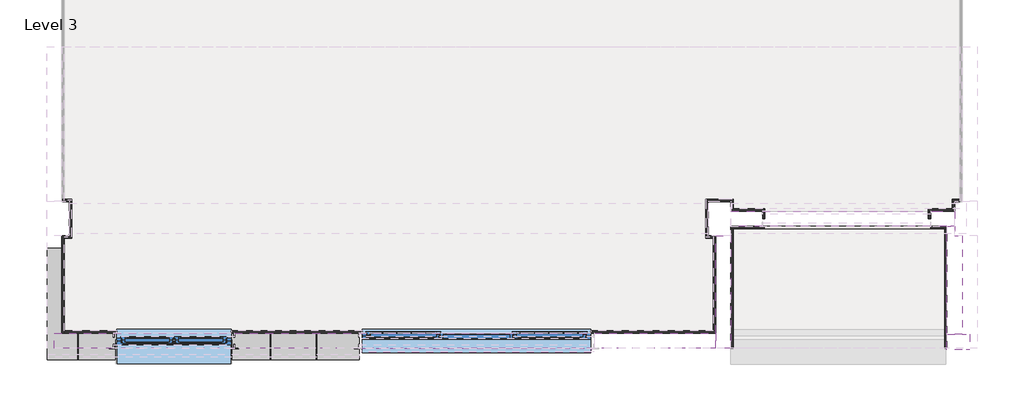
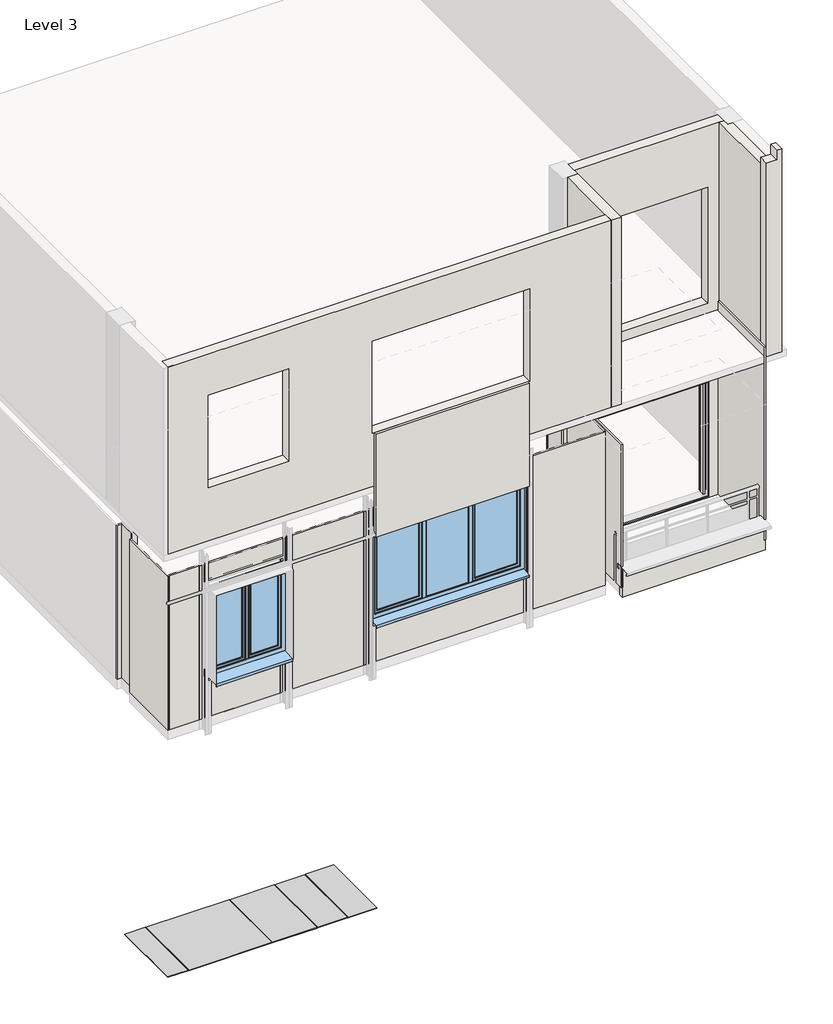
# One storey, part 1 of 2: 26 walls, 5 plates, 4 members, 2 windows.
"""IFC4 building model written with IfcOpenShell, lengths in millimetres."""

from ifc_helpers import new_model, si_unit, frame, origin, place, context, project, spatial, polyline, outline, extrude, faceted_brep, transform, mapped, element, save
from components import rectangular_mullion_bz1a_mullion_2_91d4473b, system_panel_bz1_cement_panel_a_4b41b399, system_panel_bz1_cement_panel_a_91910c2d, system_panel_bz1_cement_panel_a_8a756caf, system_panel_bz1_cement_panel_a_80ad805f, system_panel_bz1_cement_panel_a_3b9d9a30, window_0894faee, window_6c88f6a3, bz1_windows_opening_hinge_s9000_double_vent_window_windows_b4b88814, bz1_windows_opening_hinge_s9000_double_vent_window_windows_c75da518

model = new_model("IFC4")

# Units and contexts
model_context = context("Model", 3, world=origin())
ifc_project = project(units=[si_unit("LENGTHUNIT", "METRE", prefix="MILLI")], contexts=[model_context])

# Site, building, storey
site = spatial("IfcSite", under=ifc_project)
building = spatial("IfcBuilding", under=site)
storey = spatial("IfcBuildingStorey", under=building, Name="Level 3", Elevation=8000.0)

# Members
placement = place(None, origin())
rectangular_mullion_bz1a_mullion_2_shape = rectangular_mullion_bz1a_mullion_2_91d4473b(model_context)
element("IfcMember", 1, ObjectType="Rectangular Mullion : BZ1A-Mullion 2", at=placement, inside=storey, context=model_context, shape_type="MappedRepresentation", body=[
    mapped(rectangular_mullion_bz1a_mullion_2_shape, transform((-3799.9948265, -4387.9647185, 3167.5), x_axis=(1.0, 0.0, 0.0), y_axis=(0.0, 0.0, -1.0), z_axis=(0.0, 1.0, 0.0))),
])
element("IfcMember", 2, ObjectType="Rectangular Mullion : BZ1A-Mullion 2", at=placement, inside=storey, context=model_context, shape_type="MappedRepresentation", body=[
    mapped(rectangular_mullion_bz1a_mullion_2_shape, transform((-2158.7093814, -4387.9647185, 3167.5), x_axis=(1.0, 0.0, 0.0), y_axis=(0.0, 0.0, -1.0), z_axis=(0.0, 1.0, 0.0))),
])
element("IfcMember", 3, ObjectType="Rectangular Mullion : BZ1A-Mullion 2", at=placement, inside=storey, context=model_context, shape_type="MappedRepresentation", body=[
    mapped(rectangular_mullion_bz1a_mullion_2_shape, transform((-1274.9239363, -4387.9647185, 3167.5), x_axis=(1.0, 0.0, 0.0), y_axis=(0.0, 0.0, -1.0), z_axis=(0.0, 1.0, 0.0))),
])
element("IfcMember", 4, ObjectType="Rectangular Mullion : BZ1A-Mullion 2", at=placement, inside=storey, context=model_context, shape_type="MappedRepresentation", body=[
    mapped(rectangular_mullion_bz1a_mullion_2_shape, transform((-674.2634912, -4387.9647185, 3167.5), x_axis=(1.0, 0.0, 0.0), y_axis=(0.0, 0.0, -1.0), z_axis=(0.0, 1.0, 0.0))),
])

# Plates
system_panel_bz1_cement_panel_a_shape = system_panel_bz1_cement_panel_a_4b41b399(model_context)
element("IfcPlate", 5, ObjectType="System Panel : BZ1-Cement panel-A", at=placement, inside=storey, context=model_context, shape_type="MappedRepresentation", body=[
    mapped(system_panel_bz1_cement_panel_a_shape, transform((-4002.5125492, -5845.2459685, 3167.5), x_axis=(1.0, 0.0, 0.0), y_axis=(0.0, 0.0, -1.0), z_axis=(0.0, 1.0, 0.0))),
])
system_panel_bz1_cement_panel_a_2_shape = system_panel_bz1_cement_panel_a_91910c2d(model_context)
element("IfcPlate", 6, ObjectType="System Panel : BZ1-Cement panel-A", at=placement, inside=storey, context=model_context, shape_type="MappedRepresentation", body=[
    mapped(system_panel_bz1_cement_panel_a_2_shape, transform((-2979.352104, -5845.2459685, 3167.5), x_axis=(1.0, 0.0, 0.0), y_axis=(0.0, 0.0, -1.0), z_axis=(0.0, 1.0, 0.0))),
])
system_panel_bz1_cement_panel_a_3_shape = system_panel_bz1_cement_panel_a_8a756caf(model_context)
element("IfcPlate", 7, ObjectType="System Panel : BZ1-Cement panel-A", at=placement, inside=storey, context=model_context, shape_type="MappedRepresentation", body=[
    mapped(system_panel_bz1_cement_panel_a_3_shape, transform((-1716.8166589, -5845.2459685, 3167.5), x_axis=(1.0, 0.0, 0.0), y_axis=(0.0, 0.0, -1.0), z_axis=(0.0, 1.0, 0.0))),
])
system_panel_bz1_cement_panel_a_4_shape = system_panel_bz1_cement_panel_a_80ad805f(model_context)
element("IfcPlate", 8, ObjectType="System Panel : BZ1-Cement panel-A", at=placement, inside=storey, context=model_context, shape_type="MappedRepresentation", body=[
    mapped(system_panel_bz1_cement_panel_a_4_shape, transform((-974.5937138, -5845.2459685, 3167.5), x_axis=(1.0, 0.0, 0.0), y_axis=(0.0, 0.0, -1.0), z_axis=(0.0, 1.0, 0.0))),
])
system_panel_bz1_cement_panel_a_5_shape = system_panel_bz1_cement_panel_a_3b9d9a30(model_context)
element("IfcPlate", 9, ObjectType="System Panel : BZ1-Cement panel-A", at=placement, inside=storey, context=model_context, shape_type="MappedRepresentation", body=[
    mapped(system_panel_bz1_cement_panel_a_5_shape, transform((-389.5582685, -5845.2459685, 3167.5), x_axis=(1.0, 0.0, 0.0), y_axis=(0.0, 0.0, -1.0), z_axis=(0.0, 1.0, 0.0))),
])

# Walls
element("IfcWall", 10, ObjectType="BZ1_fnsh_wthie stucoo_3cm", at=placement, inside=storey, context=model_context, shape_type="Brep", body=[
    faceted_brep([(7589.4333411, -4100.9647185, 8000.0), (4759.4333411, -4100.9647185, 8000.0), (4759.4333411, -4100.9647185, 10800.0), (7589.4333411, -4100.9647185, 10800.0), (5195.0708411, -4100.9647185, 10380.0), (5195.0708411, -4100.9647185, 8020.6375), (7374.4333411, -4100.9647185, 8020.6375), (7374.4333411, -4100.9647185, 10380.0), (7589.4333411, -4130.9647185, 8000.0), (7589.4333411, -4130.9647185, 10800.0), (4759.4333411, -4130.9647185, 10800.0), (4759.4333411, -4130.9647185, 8002.7236333), (4759.4333411, -4130.9647185, 8000.0), (7559.4333411, -4130.9647185, 8000.0), (5195.0708411, -4130.9647185, 10380.0), (7374.4333411, -4130.9647185, 10380.0), (7374.4333411, -4130.9647185, 8020.6375), (5195.0708411, -4130.9647185, 8020.6375)], [[[0, 1, 2, 3], [4, 5, 6, 7]], [[8, 9, 10, 11, 12, 13], [14, 15, 16, 17]], [[1, 0, 8, 13, 12]], [[2, 1, 12, 11, 10]], [[3, 2, 10, 9]], [[5, 4, 14, 17]], [[6, 5, 17, 16]], [[7, 6, 16, 15]], [[4, 7, 15, 14]], [[0, 3, 9, 8]]]),
])
element("IfcWall", 11, ObjectType="BZ1_fnsh_wthie stucoo_3cm", at=placement, inside=storey, context=model_context, shape_type="Brep", body=[
    faceted_brep([(7589.4333411, -5700.9647185, 12000.0), (7589.4333411, -5700.9647185, 8000.0), (7589.4333411, -4130.9647185, 8000.0), (7589.4333411, -4130.9647185, 10800.0), (7589.4333411, -4130.9647185, 12000.0), (7559.4333411, -5700.9647185, 8000.0), (7559.4333411, -5700.9647185, 12000.0), (7559.4333411, -4130.9647185, 12000.0), (7559.4333411, -4130.9647185, 8000.0)], [[[0, 1, 2, 3, 4]], [[5, 6, 7, 8]], [[2, 1, 5, 8]], [[0, 4, 7, 6]], [[4, 3, 2, 8, 7]], [[0, 6, 5, 1]]]),
])
element("IfcWall", 12, ObjectType="BZ1_fnsh_white stucoo_5cm", at=placement, inside=storey, context=model_context, shape_type="Brep", body=[
    faceted_brep([(-80.2322612, -5700.9799478, 12900.0), (2927.4333411, -5700.9799478, 12900.0), (2927.4333411, -5700.9799478, 11670.0), (2927.4333411, -5700.9799478, 10810.0), (-80.2322612, -5700.9799478, 10810.0), (-80.2322612, -5750.9799478, 10770.0), (2927.4333411, -5750.9799478, 10770.0), (2927.4333411, -5750.9799478, 12900.0), (-80.2322612, -5750.9799478, 12900.0), (2927.4333411, -5743.4647185, 10770.0), (2927.4333411, -5743.4647185, 10810.0), (-80.2322612, -5743.4647185, 10810.0), (-80.2322612, -5743.4647185, 10770.0)], [[[0, 1, 2, 3, 4]], [[5, 6, 7, 8]], [[7, 6, 9, 10, 3, 2, 1]], [[10, 11, 4, 3]], [[11, 10, 9, 12]], [[6, 5, 12, 9]], [[1, 0, 8, 7]], [[5, 8, 0, 4, 11, 12]]]),
])
element("IfcWall", 13, ObjectType="BZ1_fnsh_gypsun3cm", at=placement, inside=storey, context=model_context, shape_type="SweptSolid", body=[
    extrude(outline(polyline([(8000.0, 4559.4333411), (11180.0, 4559.4333411), (11180.0, -4000.5666589), (8000.0, -4000.5666589), (8000.0, 4559.4333411)]), holes=[polyline([(8951.5, -1790.5666589), (8951.5, -3290.5666589), (10770.0, -3290.5666589), (10770.0, -1790.5666589), (8951.5, -1790.5666589)]), polyline([(8951.5, 2922.4333411), (8951.5, -75.5666589), (10770.0, -75.5666589), (10770.0, 2922.4333411), (8951.5, 2922.4333411)])]), frame((0.0, -5500.9647185, 0.0), z_axis=(0.0, 1.0, 0.0), x_axis=(0.0, 0.0, 1.0)), (0.0, 0.0, 1.0), 30.0),
])
element("IfcWall", 14, ObjectType="BZ1_fnsh_gypsun3cm", at=placement, inside=storey, context=model_context, shape_type="Brep", body=[
    faceted_brep([(-3980.5666589, -5500.9647185, 8000.0), (-3980.5666589, -4255.9647185, 8000.0), (-3980.5666589, -4225.9647185, 8000.0), (-3980.5666589, -4225.9647185, 11175.0), (-3980.5666589, -5500.9647185, 11175.0), (-4010.5666589, -5500.9647185, 8000.0), (-4010.5666589, -5500.9647185, 11175.0), (-4010.5666589, -4225.9647185, 11175.0), (-4010.5666589, -4225.9647185, 8000.0)], [[[0, 1, 2, 3, 4]], [[5, 6, 7, 8]], [[2, 1, 0, 5, 8]], [[4, 3, 7, 6]], [[3, 2, 8, 7]], [[0, 4, 6, 5]]]),
])
element("IfcWall", 15, ObjectType="BZ1_fnsh_gypsun3cm", at=placement, inside=storey, context=model_context, shape_type="Brep", body=[
    faceted_brep([(-3980.5666589, -4255.9647185, 8000.0), (-3880.5666589, -4255.9647185, 8000.0), (-3880.5666589, -4255.9647185, 11300.0), (-3980.5666589, -4255.9647185, 11300.0), (-3980.5666589, -4225.9647185, 8000.0), (-3980.5666589, -4225.9647185, 11175.0), (-3980.5666589, -4225.9647185, 11300.0), (-3880.5666589, -4225.9647185, 11300.0), (-3880.5666589, -4225.9647185, 11180.0), (-3880.5666589, -4225.9647185, 8000.0), (-3910.5666589, -4225.9647185, 8000.0)], [[[0, 1, 2, 3]], [[4, 5, 6, 7, 8, 9, 10]], [[1, 0, 4, 10, 9]], [[3, 2, 7, 6]], [[0, 3, 6, 5, 4]], [[2, 1, 9, 8, 7]]]),
])
element("IfcWall", 16, ObjectType="BZ1_fnsh_gypsun3cm", at=placement, inside=storey, context=model_context, shape_type="Brep", body=[
    faceted_brep([(-3880.5666589, -4225.9647185, 8000.0), (-3880.5666589, -3745.9647185, 8000.0), (-3880.5666589, -3745.9647185, 11180.0), (-3880.5666589, -4225.9647185, 11180.0), (-3910.5666589, -4225.9647185, 8000.0), (-3910.5666589, -4225.9647185, 11180.0), (-3910.5666589, -3775.9647185, 11180.0), (-3910.5666589, -3745.9647185, 11180.0), (-3910.5666589, -3745.9647185, 8000.0), (-3910.5666589, -3775.9647185, 8000.0)], [[[0, 1, 2, 3]], [[4, 5, 6, 7, 8, 9]], [[1, 0, 4, 9, 8]], [[3, 2, 7, 6, 5]], [[0, 3, 5, 4]], [[2, 1, 8, 7]]]),
])
element("IfcWall", 17, ObjectType="BZ1_fnsh_gypsun3cm", at=placement, inside=storey, context=model_context, shape_type="SweptSolid", body=[
    extrude(outline(polyline([(-4000.5666589, -3745.9647185), (-3910.5666589, -3745.9647185), (-3910.5666589, -3775.9647185), (-4000.5666589, -3775.9647185), (-4000.5666589, -3745.9647185)])), frame((0.0, 0.0, 8000.0), z_axis=(0.0, 0.0, 1.0), x_axis=(1.0, 0.0, 0.0)), (0.0, 0.0, 1.0), 3180.0),
])
element("IfcWall", 18, ObjectType="BZ1_fnsh_gypsun3cm", at=placement, inside=storey, context=model_context, shape_type="Brep", body=[
    faceted_brep([(7759.4333411, -3745.9647185, 8000.0), (7659.4333411, -3745.9647185, 8000.0), (7659.4333411, -3745.9647185, 11184.6661592), (7759.4333411, -3745.9647185, 11184.6661592), (7759.4333411, -3775.9647185, 8000.0), (7759.4333411, -3775.9647185, 11184.6661592), (7659.4333411, -3775.9647185, 11184.6661592), (7659.4333411, -3775.9647185, 11180.0), (7659.4333411, -3775.9647185, 8000.0), (7689.4333411, -3775.9647185, 8000.0)], [[[0, 1, 2, 3]], [[4, 5, 6, 7, 8, 9]], [[1, 0, 4, 9, 8]], [[3, 2, 6, 5]], [[0, 3, 5, 4]], [[2, 1, 8, 7, 6]]]),
])
element("IfcWall", 19, ObjectType="BZ1_fnsh_gypsun3cm", at=placement, inside=storey, context=model_context, shape_type="Brep", body=[
    faceted_brep([(7659.4333411, -3775.9647185, 8000.0), (7659.4333411, -3870.9647185, 8000.0), (7659.4333411, -3900.9647185, 8000.0), (7659.4333411, -3900.9647185, 11200.0), (7659.4333411, -3900.9647185, 11300.0), (7659.4333411, -3870.9647185, 11300.0), (7659.4333411, -3870.9647185, 11200.0), (7659.4333411, -3870.9647185, 11180.0), (7659.4333411, -3775.9647185, 11180.0), (7689.4333411, -3775.9647185, 8000.0), (7689.4333411, -3775.9647185, 11180.0), (7689.4333411, -3870.9647185, 11180.0), (7689.4333411, -3870.9647185, 11300.0), (7689.4333411, -3900.9647185, 11300.0), (7689.4333411, -3900.9647185, 11200.0), (7689.4333411, -3900.9647185, 8000.0)], [[[0, 1, 2, 3, 4, 5, 6, 7, 8]], [[9, 10, 11, 12, 13, 14, 15]], [[2, 1, 0, 9, 15]], [[0, 8, 10, 9]], [[5, 4, 13, 12]], [[8, 7, 11, 10]], [[5, 12, 11, 7, 6]], [[2, 15, 14, 13, 4, 3]]]),
])
element("IfcWall", 20, ObjectType="BZ1_fnsh_gypsun3cm", at=placement, inside=storey, context=model_context, shape_type="Brep", body=[
    faceted_brep([(7659.4333411, -3870.9647185, 8000.0), (7344.4333411, -3870.9647185, 8000.0), (7344.4333411, -3870.9647185, 10400.0), (5204.4333411, -3870.9647185, 10400.0), (5174.4333411, -3870.9647185, 10400.0), (5174.4333411, -3870.9647185, 11200.0), (5204.4333411, -3870.9647185, 11200.0), (7659.4333411, -3870.9647185, 11200.0), (7659.4333411, -3870.9647185, 11180.0), (7659.4333411, -3900.9647185, 8000.0), (7659.4333411, -3900.9647185, 11200.0), (5204.4333411, -3900.9647185, 11200.0), (5174.4333411, -3900.9647185, 11200.0), (5174.4333411, -3900.9647185, 10400.0), (5204.4333411, -3900.9647185, 10400.0), (7344.4333411, -3900.9647185, 10400.0), (7344.4333411, -3900.9647185, 8000.0), (7374.4333411, -3900.9647185, 8000.0)], [[[0, 1, 2, 3, 4, 5, 6, 7, 8]], [[9, 10, 11, 12, 13, 14, 15, 16, 17]], [[0, 8, 7, 10, 9]], [[1, 0, 9, 17, 16]], [[4, 3, 2, 15, 14, 13]], [[5, 4, 13, 12]], [[7, 6, 5, 12, 11, 10]], [[2, 1, 16, 15]]]),
])
element("IfcWall", 21, ObjectType="BZ1_fnsh_gypsun3cm", at=placement, inside=storey, context=model_context, shape_type="SweptSolid", body=[
    extrude(outline(polyline([(7344.4333411, -4000.9647185), (7344.4333411, -3900.9647185), (7374.4333411, -3900.9647185), (7374.4333411, -4000.9647185), (7344.4333411, -4000.9647185)])), frame((0.0, 0.0, 8000.0), z_axis=(0.0, 0.0, 1.0), x_axis=(1.0, 0.0, 0.0)), (0.0, 0.0, 1.0), 2400.0),
])
element("IfcWall", 22, ObjectType="BZ1_fnsh_gypsun3cm", at=placement, inside=storey, context=model_context, shape_type="Brep", body=[
    faceted_brep([(5204.4333411, -3870.9647185, 8000.0), (4789.4333411, -3870.9647185, 8000.0), (4759.4333411, -3870.9647185, 8000.0), (4759.4333411, -3870.9647185, 11200.0), (4759.4333411, -3870.9647185, 11300.0), (5204.4333411, -3870.9647185, 11300.0), (5204.4333411, -3870.9647185, 11200.0), (5174.4333411, -3870.9647185, 11200.0), (5174.4333411, -3870.9647185, 10400.0), (5204.4333411, -3870.9647185, 10400.0), (5204.4333411, -3900.9647185, 8000.0), (5204.4333411, -3900.9647185, 10400.0), (5174.4333411, -3900.9647185, 10400.0), (5174.4333411, -3900.9647185, 11200.0), (5204.4333411, -3900.9647185, 11200.0), (5204.4333411, -3900.9647185, 11300.0), (5174.4333411, -3900.9647185, 11300.0), (4759.4333411, -3900.9647185, 11300.0), (4759.4333411, -3900.9647185, 8000.0), (5174.4333411, -3900.9647185, 8000.0)], [[[0, 1, 2, 3, 4, 5, 6, 7, 8, 9]], [[10, 11, 12, 13, 14, 15, 16, 17, 18, 19]], [[2, 1, 0, 10, 19, 18]], [[5, 4, 17, 16, 15]], [[4, 3, 2, 18, 17]], [[8, 12, 11, 9]], [[8, 7, 13, 12]], [[6, 14, 13, 7]], [[0, 9, 11, 10]], [[6, 5, 15, 14]]]),
])
element("IfcWall", 23, ObjectType="BZ1_fnsh_gypsun3cm", at=placement, inside=storey, context=model_context, shape_type="Brep", body=[
    faceted_brep([(4789.4333411, -3870.9647185, 8000.0), (4789.4333411, -3745.9647185, 8000.0), (4789.4333411, -3745.9647185, 11200.0), (4789.4333411, -3870.9647185, 11200.0), (4759.4333411, -3870.9647185, 8000.0), (4759.4333411, -3870.9647185, 11200.0), (4759.4333411, -3775.9647185, 11200.0), (4759.4333411, -3745.9647185, 11200.0), (4759.4333411, -3745.9647185, 8000.0), (4759.4333411, -3775.9647185, 8000.0)], [[[0, 1, 2, 3]], [[4, 5, 6, 7, 8, 9]], [[1, 0, 4, 9, 8]], [[3, 2, 7, 6, 5]], [[0, 3, 5, 4]], [[2, 1, 8, 7]]]),
])
element("IfcWall", 24, ObjectType="BZ1_fnsh_gypsun3cm", at=placement, inside=storey, context=model_context, shape_type="Brep", body=[
    faceted_brep([(4759.4333411, -3745.9647185, 8000.0), (4429.4333411, -3745.9647185, 8000.0), (4429.4333411, -3745.9647185, 11200.0), (4759.4333411, -3745.9647185, 11200.0), (4759.4333411, -3775.9647185, 8000.0), (4759.4333411, -3775.9647185, 11200.0), (4429.4333411, -3775.9647185, 11200.0), (4429.4333411, -3775.9647185, 8000.0), (4459.4333411, -3775.9647185, 8000.0)], [[[0, 1, 2, 3]], [[4, 5, 6, 7, 8]], [[1, 0, 4, 8, 7]], [[3, 2, 6, 5]], [[0, 3, 5, 4]], [[2, 1, 7, 6]]]),
])
element("IfcWall", 25, ObjectType="BZ1_fnsh_gypsun3cm", at=placement, inside=storey, context=model_context, shape_type="Brep", body=[
    faceted_brep([(4429.4333411, -3775.9647185, 8000.0), (4429.4333411, -4255.9647185, 8000.0), (4429.4333411, -4255.9647185, 11180.0), (4429.4333411, -4240.9647185, 11180.0), (4429.4333411, -4240.9647185, 11200.4600485), (4429.4333411, -3775.9647185, 11200.4600485), (4429.4333411, -3775.9647185, 11200.0), (4459.4333411, -3775.9647185, 8000.0), (4459.4333411, -3775.9647185, 11200.4600485), (4459.4333411, -4240.9647185, 11200.4600485), (4459.4333411, -4240.9647185, 11180.0), (4459.4333411, -4255.9647185, 11180.0), (4459.4333411, -4255.9647185, 8000.0), (4459.4333411, -4225.9647185, 8000.0)], [[[0, 1, 2, 3, 4, 5, 6]], [[7, 8, 9, 10, 11, 12, 13]], [[1, 0, 7, 13, 12]], [[0, 6, 5, 8, 7]], [[2, 1, 12, 11]], [[5, 4, 9, 8]], [[3, 2, 11, 10]], [[9, 4, 3, 10]]]),
])
element("IfcWall", 26, ObjectType="BZ1_fnsh_gypsun3cm", at=placement, inside=storey, context=model_context, shape_type="Brep", body=[
    faceted_brep([(4459.4333411, -4255.9647185, 8000.0), (4529.4333411, -4255.9647185, 8000.0), (4559.4333411, -4255.9647185, 8000.0), (4559.4333411, -4255.9647185, 11200.0), (4559.4333411, -4255.9647185, 11300.0), (4459.4333411, -4255.9647185, 11300.0), (4459.4333411, -4255.9647185, 11180.0), (4459.4333411, -4225.9647185, 8000.0), (4459.4333411, -4225.9647185, 11300.0), (4559.4333411, -4225.9647185, 11300.0), (4559.4333411, -4225.9647185, 8000.0)], [[[0, 1, 2, 3, 4, 5, 6]], [[7, 8, 9, 10]], [[2, 1, 0, 7, 10]], [[5, 4, 9, 8]], [[0, 6, 5, 8, 7]], [[2, 10, 9, 4, 3]]]),
])
element("IfcWall", 27, ObjectType="BZ1_fnsh_gypsun3cm", at=placement, inside=storey, context=model_context, shape_type="SweptSolid", body=[
    extrude(outline(polyline([(4529.4333411, -5500.9647185), (4529.4333411, -4255.9647185), (4559.4333411, -4255.9647185), (4559.4333411, -5500.9647185), (4529.4333411, -5500.9647185)])), frame((0.0, 0.0, 8000.0), z_axis=(0.0, 0.0, 1.0), x_axis=(1.0, 0.0, 0.0)), (0.0, 0.0, 1.0), 3200.0),
])
element("IfcWall", 28, ObjectType="BZ1_fnsh_gypsun3cm", at=placement, inside=storey, context=model_context, shape_type="Brep", body=[
    faceted_brep([(5174.4333411, -3900.9647185, 11300.0), (5174.4333411, -3900.9647185, 11200.0), (5174.4333411, -3900.9647185, 10400.0), (5174.4333411, -3900.9647185, 8000.0), (5174.4333411, -4000.9647185, 8000.0), (5174.4333411, -4000.9647185, 11300.0), (5204.4333411, -3900.9647185, 8000.0), (5204.4333411, -3900.9647185, 10400.0), (5204.4333411, -3900.9647185, 11200.0), (5204.4333411, -3900.9647185, 11300.0), (5204.4333411, -4000.9647185, 11300.0), (5204.4333411, -4000.9647185, 8000.0)], [[[0, 1, 2, 3, 4, 5]], [[6, 7, 8, 9, 10, 11]], [[4, 3, 6, 11]], [[5, 4, 11, 10]], [[0, 5, 10, 9]], [[0, 9, 8, 7, 6, 3, 2, 1]]]),
])
element("IfcWall", 29, ObjectType="BZ1_Core_Block_Whit flashing-10cm", at=placement, inside=storey, context=model_context, shape_type="SweptSolid", body=[
    extrude(outline(polyline([(4774.4280707, -5620.3554823), (7574.4280707, -5620.3554823), (7574.4280707, -5700.3554823), (4774.4280707, -5700.3554823), (4774.4280707, -5620.3554823)])), frame((0.0, 0.0, 7800.0), z_axis=(0.0, 0.0, 1.0), x_axis=(1.0, 0.0, 0.0)), (0.0, 0.0, 1.0), 600.0),
])
element("IfcWall", 30, ObjectType="BZ1_fnsh_wthie stucoo_3cm", at=placement, inside=storey, context=model_context, shape_type="Brep", body=[
    faceted_brep([(4789.4333411, -5700.9647185, 8002.7236333), (4789.4333411, -4130.9647185, 8002.7236333), (4789.4333411, -4130.9647185, 10960.1363241), (4789.4333411, -5700.9647185, 10960.1363241), (4759.4333411, -5700.9647185, 8002.7236333), (4759.4333411, -5700.9647185, 10960.1363241), (4759.4333411, -4130.9647185, 10960.1363241), (4759.4333411, -4130.9647185, 10800.0), (4759.4333411, -4130.9647185, 8002.7236333)], [[[0, 1, 2, 3]], [[4, 5, 6, 7, 8]], [[1, 0, 4, 8]], [[3, 2, 6, 5]], [[0, 3, 5, 4]], [[2, 1, 8, 7, 6]]]),
])
element("IfcWall", 31, ObjectType="BZ1-Core-Block-20cm", at=placement, inside=storey, context=model_context, shape_type="Brep", body=[
    faceted_brep([(4759.4333411, -5700.9647185, 15670.0), (4759.4333411, -5700.9647185, 11800.0), (4759.4333411, -4225.9647185, 11800.0), (4759.4333411, -4225.9647185, 15670.0), (4559.4333411, -5700.9647185, 11800.0), (4559.4333411, -5700.9647185, 15670.0), (4559.4333411, -5500.9647185, 15670.0), (4559.4333411, -4225.9647185, 15670.0), (4559.4333411, -4225.9647185, 15300.0), (4559.4333411, -4225.9647185, 12000.0), (4559.4333411, -4225.9647185, 11800.0), (4559.4333411, -5500.9647185, 11800.0)], [[[0, 1, 2, 3]], [[4, 5, 6, 7, 8, 9, 10, 11]], [[1, 4, 11, 10, 2]], [[5, 0, 3, 7, 6]], [[3, 2, 10, 9, 8, 7]], [[1, 0, 5, 4]]]),
])
element("IfcWall", 32, ObjectType="BZ1-Core-Block-20cm", at=placement, inside=storey, context=model_context, shape_type="Brep", body=[
    faceted_brep([(4759.4333411, -4100.9647185, 15670.0), (4759.4333411, -4100.9647185, 11800.0), (7589.4333411, -4100.9647185, 11800.0), (7689.4333411, -4100.9647185, 11800.0), (7689.4333411, -4100.9647185, 15670.0), (7589.4333411, -4100.9647185, 15670.0), (5174.4333411, -4100.9647185, 12000.0), (5174.4333411, -4100.9647185, 14400.0), (7374.4333411, -4100.9647185, 14400.0), (7374.4333411, -4100.9647185, 12000.0), (4759.4333411, -3900.9647185, 11800.0), (4759.4333411, -3900.9647185, 15670.0), (7689.4333411, -3900.9647185, 15670.0), (7689.4333411, -3900.9647185, 15300.0), (7689.4333411, -3900.9647185, 12000.0), (7689.4333411, -3900.9647185, 11800.0), (5174.4333411, -3900.9647185, 14400.0), (5174.4333411, -3900.9647185, 12000.0), (7374.4333411, -3900.9647185, 12000.0), (7374.4333411, -3900.9647185, 14400.0)], [[[0, 1, 2, 3, 4, 5], [6, 7, 8, 9]], [[10, 11, 12, 13, 14, 15], [16, 17, 18, 19]], [[1, 10, 15, 3, 2]], [[11, 0, 5, 4, 12]], [[6, 17, 16, 7]], [[7, 16, 19, 8]], [[18, 9, 8, 19]], [[17, 6, 9, 18]], [[4, 3, 15, 14, 13, 12]], [[1, 0, 11, 10]]]),
])
element("IfcWall", 33, ObjectType="BZ1-Core-Block-20cm", at=placement, inside=storey, context=model_context, shape_type="SweptSolid", body=[
    extrude(outline(polyline([(11800.0, -4110.5666589), (11800.0, 4559.4333411), (15670.0, 4559.4333411), (15670.0, -4110.5666589), (11800.0, -4110.5666589)]), holes=[polyline([(12900.0, -115.5666589), (14810.0, -115.5666589), (14810.0, 2964.4333411), (12900.0, 2964.4333411), (12900.0, -115.5666589)]), polyline([(12900.0, -1750.5666589), (12900.0, -3330.5666589), (14810.0, -3330.5666589), (14810.0, -1750.5666589), (12900.0, -1750.5666589)])]), frame((0.0, -5700.9647185, 0.0), z_axis=(0.0, 1.0, 0.0), x_axis=(0.0, 0.0, 1.0)), (0.0, 0.0, 1.0), 200.0),
])
element("IfcWall", 34, ObjectType="BZ1-Core-Block-20cm", at=placement, inside=storey, context=model_context, shape_type="Brep", body=[
    faceted_brep([(7889.4333411, -5515.9647185, 11800.0), (7789.4333411, -5515.9647185, 11800.0), (7589.4333411, -5515.9647185, 11800.0), (7589.4333411, -5515.9647185, 15670.0), (7589.4333411, -5515.9647185, 15800.0), (7789.4333411, -5515.9647185, 15800.0), (7789.4333411, -5515.9647185, 16000.0), (7889.4333411, -5515.9647185, 16000.0), (7889.4333411, -5715.9647185, 11800.0), (7889.4333411, -5715.9647185, 16000.0), (7789.4333411, -5715.9647185, 16000.0), (7789.4333411, -5715.9647185, 15800.0), (7589.4333411, -5715.9647185, 15800.0), (7589.4333411, -5715.9647185, 11800.0), (7789.4333411, -5715.9647185, 11800.0)], [[[0, 1, 2, 3, 4, 5, 6, 7]], [[8, 9, 10, 11, 12, 13, 14]], [[2, 1, 0, 8, 14, 13]], [[7, 6, 10, 9]], [[0, 7, 9, 8]], [[11, 5, 4, 12]], [[2, 13, 12, 4, 3]], [[6, 5, 11, 10]]]),
])
element("IfcWall", 35, ObjectType="BZ1-Core-Block-20cm", at=placement, inside=storey, context=model_context, shape_type="Brep", body=[
    faceted_brep([(7789.4333411, -5515.9647185, 15670.0), (7789.4333411, -5515.9647185, 11800.0), (7789.4333411, -4225.9647185, 11800.0), (7789.4333411, -4225.9647185, 15670.0), (7589.4333411, -4100.9647185, 11800.0), (7589.4333411, -5515.9647185, 11800.0), (7589.4333411, -5515.9647185, 15670.0), (7589.4333411, -4100.9647185, 15670.0), (7589.4333411, -4100.9647185, 14820.0), (7589.4333411, -4100.9647185, 12000.0), (7689.4333411, -4100.9647185, 11800.0), (7689.4333411, -4225.9647185, 11800.0), (7689.4333411, -4225.9647185, 15670.0), (7689.4333411, -4100.9647185, 15670.0)], [[[0, 1, 2, 3]], [[4, 5, 6, 7, 8, 9]], [[5, 4, 10, 11, 2, 1]], [[7, 6, 0, 3, 12, 13]], [[11, 12, 3, 2]], [[12, 11, 10, 13]], [[4, 9, 8, 7, 13, 10]], [[5, 1, 0, 6]]]),
])

# Windows
window_shape = window_0894faee(model_context)
window_2_shape = window_6c88f6a3(model_context)
element("IfcWindow", 36, ObjectType="BZ1_Windows_Opening-Hinge_S9000_Three-Piece-Window-Turn-Tilt : Windows_Opening-Hinge_S9000_Three-Piece-Window-Turn-Tilt", at=placement, inside=storey, context=model_context, shape_type="MappedRepresentation", body=[
    mapped(window_shape, transform((1424.4333411, -5600.9647185, 8100.0), x_axis=(1.0, 0.0, 0.0), y_axis=(0.0, 1.0, 0.0), z_axis=(0.0, 0.0, 1.0))),
    mapped(window_2_shape, transform((1424.4333411, -5600.9647185, 8100.0), x_axis=(1.0, 0.0, 0.0), y_axis=(0.0, 1.0, 0.0), z_axis=(0.0, 0.0, 1.0))),
])
bz1_windows_opening_hinge_s9000_double_vent_window_windows_shape = bz1_windows_opening_hinge_s9000_double_vent_window_windows_b4b88814(model_context)
bz1_windows_opening_hinge_s9000_double_vent_window_windows_2_shape = bz1_windows_opening_hinge_s9000_double_vent_window_windows_c75da518(model_context)
element("IfcWindow", 37, ObjectType="BZ1_Windows_Opening-Hinge_S9000-Double-Vent-Window : Windows_Opening-Hinge_S9000-Double-Vent-Window", at=placement, inside=storey, context=model_context, shape_type="MappedRepresentation", body=[
    mapped(bz1_windows_opening_hinge_s9000_double_vent_window_windows_shape, transform((-2540.5666589, -5600.9647185, 8100.0), x_axis=(-1.0, 0.0, 0.0), y_axis=(0.0, -1.0, 0.0), z_axis=(0.0, 0.0, 1.0))),
    mapped(bz1_windows_opening_hinge_s9000_double_vent_window_windows_2_shape, transform((-2540.5666589, -5600.9647185, 8100.0), x_axis=(-1.0, 0.0, 0.0), y_axis=(0.0, -1.0, 0.0), z_axis=(0.0, 0.0, 1.0))),
])

save(model, "model.ifc")
